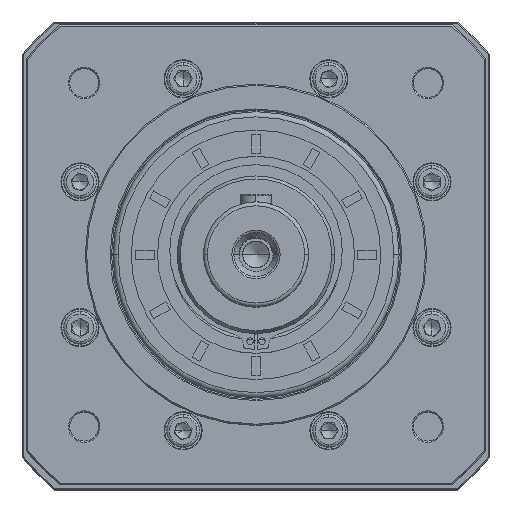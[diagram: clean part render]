
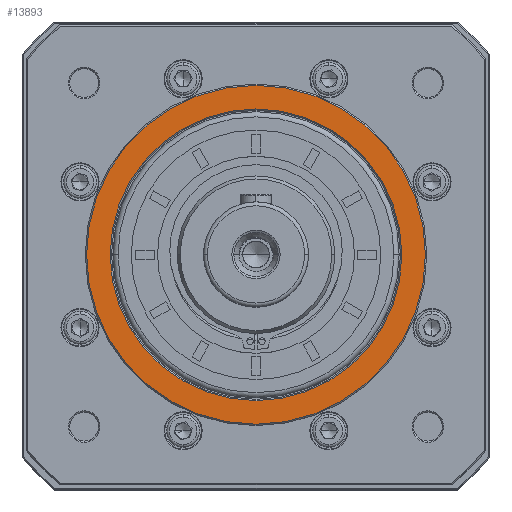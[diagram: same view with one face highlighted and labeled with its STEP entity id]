
A CAD part, top view. The second image highlights one B-rep face of the part: STEP entity #13893.
In plain terms, the highlighted planar face has unit normal (0, 0, 1).
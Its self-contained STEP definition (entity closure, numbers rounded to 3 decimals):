
#330 = DIRECTION ( 'NONE',  ( 0., 0., -1. ) ) ;
#2067 = CIRCLE ( 'NONE', #22722, 55.5 ) ;
#3952 = DIRECTION ( 'NONE',  ( -1., 0., 0. ) ) ;
#6389 = AXIS2_PLACEMENT_3D ( 'NONE', #34544, #59134, #3952 ) ;
#7188 = AXIS2_PLACEMENT_3D ( 'NONE', #76044, #90220, #75379 ) ;
#8680 = EDGE_CURVE ( 'NONE', #12676, #85313, #16286, .T. ) ;
#12676 = VERTEX_POINT ( 'NONE', #17032 ) ;
#13893 = ADVANCED_FACE ( 'NONE', ( #45635, #21496 ), #49409, .T. ) ;
#16286 = CIRCLE ( 'NONE', #7188, 55.5 ) ;
#17032 = CARTESIAN_POINT ( 'NONE',  ( 133.77, 70.375, 253.515 ) ) ;
#18833 = CARTESIAN_POINT ( 'NONE',  ( 124.77, 70.375, 253.515 ) ) ;
#20295 = VERTEX_POINT ( 'NONE', #57537 ) ;
#20552 = DIRECTION ( 'NONE',  ( 1., 0., 0. ) ) ;
#21496 = FACE_OUTER_BOUND ( 'NONE', #28011, .T. ) ;
#21552 = CARTESIAN_POINT ( 'NONE',  ( 189.27, 70.375, 253.515 ) ) ;
#22357 = EDGE_CURVE ( 'NONE', #90517, #20295, #51676, .T. ) ;
#22722 = AXIS2_PLACEMENT_3D ( 'NONE', #21552, #35958, #20552 ) ;
#26843 = EDGE_LOOP ( 'NONE', ( #31315, #35241 ) ) ;
#27444 = AXIS2_PLACEMENT_3D ( 'NONE', #56807, #73586, #95472 ) ;
#28011 = EDGE_LOOP ( 'NONE', ( #82409, #55853 ) ) ;
#31315 = ORIENTED_EDGE ( 'NONE', *, *, #72161, .T. ) ;
#34544 = CARTESIAN_POINT ( 'NONE',  ( 189.27, 70.375, 253.515 ) ) ;
#35241 = ORIENTED_EDGE ( 'NONE', *, *, #8680, .T. ) ;
#35958 = DIRECTION ( 'NONE',  ( 0., 0., -1. ) ) ;
#38040 = CARTESIAN_POINT ( 'NONE',  ( 244.77, 70.375, 253.515 ) ) ;
#40219 = EDGE_CURVE ( 'NONE', #20295, #90517, #97862, .T. ) ;
#45635 = FACE_BOUND ( 'NONE', #26843, .T. ) ;
#46393 = CARTESIAN_POINT ( 'NONE',  ( 189.27, 70.375, 253.515 ) ) ;
#49409 = PLANE ( 'NONE',  #27444 ) ;
#51676 = CIRCLE ( 'NONE', #6389, 64.5 ) ;
#55853 = ORIENTED_EDGE ( 'NONE', *, *, #40219, .F. ) ;
#56807 = CARTESIAN_POINT ( 'NONE',  ( 189.27, 70.375, 253.515 ) ) ;
#57537 = CARTESIAN_POINT ( 'NONE',  ( 253.77, 70.375, 253.515 ) ) ;
#59134 = DIRECTION ( 'NONE',  ( 0., 0., -1. ) ) ;
#68118 = AXIS2_PLACEMENT_3D ( 'NONE', #46393, #330, #92818 ) ;
#72161 = EDGE_CURVE ( 'NONE', #85313, #12676, #2067, .T. ) ;
#73586 = DIRECTION ( 'NONE',  ( 0., 0., 1. ) ) ;
#75379 = DIRECTION ( 'NONE',  ( 1., 0., 0. ) ) ;
#76044 = CARTESIAN_POINT ( 'NONE',  ( 189.27, 70.375, 253.515 ) ) ;
#82409 = ORIENTED_EDGE ( 'NONE', *, *, #22357, .F. ) ;
#85313 = VERTEX_POINT ( 'NONE', #38040 ) ;
#90220 = DIRECTION ( 'NONE',  ( 0., 0., -1. ) ) ;
#90517 = VERTEX_POINT ( 'NONE', #18833 ) ;
#92818 = DIRECTION ( 'NONE',  ( -1., 0., 0. ) ) ;
#95472 = DIRECTION ( 'NONE',  ( 1., 0., 0. ) ) ;
#97862 = CIRCLE ( 'NONE', #68118, 64.5 ) ;
